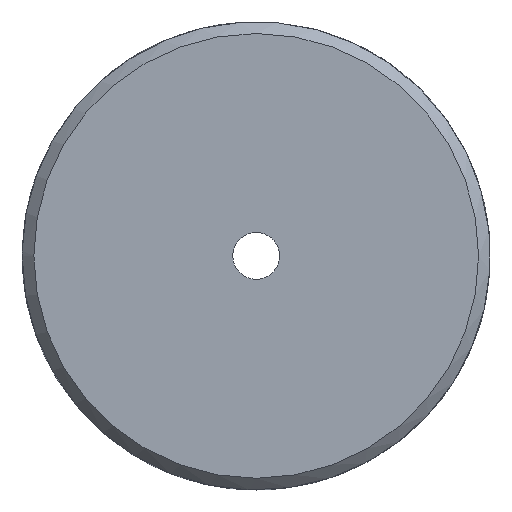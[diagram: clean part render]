
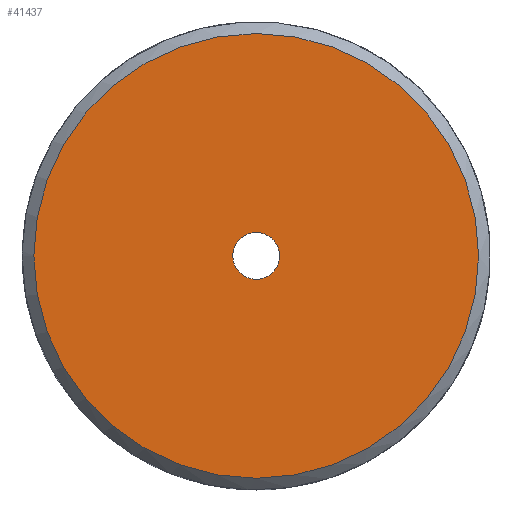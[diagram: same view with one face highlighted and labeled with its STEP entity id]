
A CAD part, left-side view. The second image highlights one B-rep face of the part: STEP entity #41437.
In plain terms, the highlighted planar face has unit normal (-1, 0, 0).
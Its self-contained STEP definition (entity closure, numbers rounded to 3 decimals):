
#12424=ORIENTED_EDGE('',*,*,#14292,.F.);
#12425=ORIENTED_EDGE('',*,*,#14293,.F.);
#12675=CIRCLE('',#41141,9.5);
#12676=CIRCLE('',#41143,1.);
#13341=VERTEX_POINT('',#40643);
#13342=VERTEX_POINT('',#40646);
#14292=EDGE_CURVE('',#13341,#13341,#12675,.T.);
#14293=EDGE_CURVE('',#13342,#13342,#12676,.T.);
#14585=EDGE_LOOP('',(#12424));
#14586=EDGE_LOOP('',(#12425));
#14880=FACE_BOUND('',#14585,.T.);
#14881=FACE_BOUND('',#14586,.T.);
#15864=DIRECTION('',(1.,0.,0.));
#15865=DIRECTION('',(0.,0.,-9.5));
#15866=DIRECTION('',(-1.,0.,0.));
#15867=DIRECTION('',(0.,1.,0.));
#15868=DIRECTION('',(-1.,0.,0.));
#15869=DIRECTION('',(0.,0.,1.));
#40643=CARTESIAN_POINT('',(0.,0.,-9.5));
#40644=CARTESIAN_POINT('',(0.,0.,0.));
#40645=CARTESIAN_POINT('',(0.,0.,-9.5));
#40646=CARTESIAN_POINT('',(0.,0.,1.));
#40647=CARTESIAN_POINT('',(0.,0.,0.));
#41141=AXIS2_PLACEMENT_3D('',#40644,#15864,#15865);
#41142=AXIS2_PLACEMENT_3D('',#40645,#15866,#15867);
#41143=AXIS2_PLACEMENT_3D('',#40647,#15868,#15869);
#41148=PLANE('',#41142);
#41437=ADVANCED_FACE('',(#14880,#14881),#41148,.T.);
